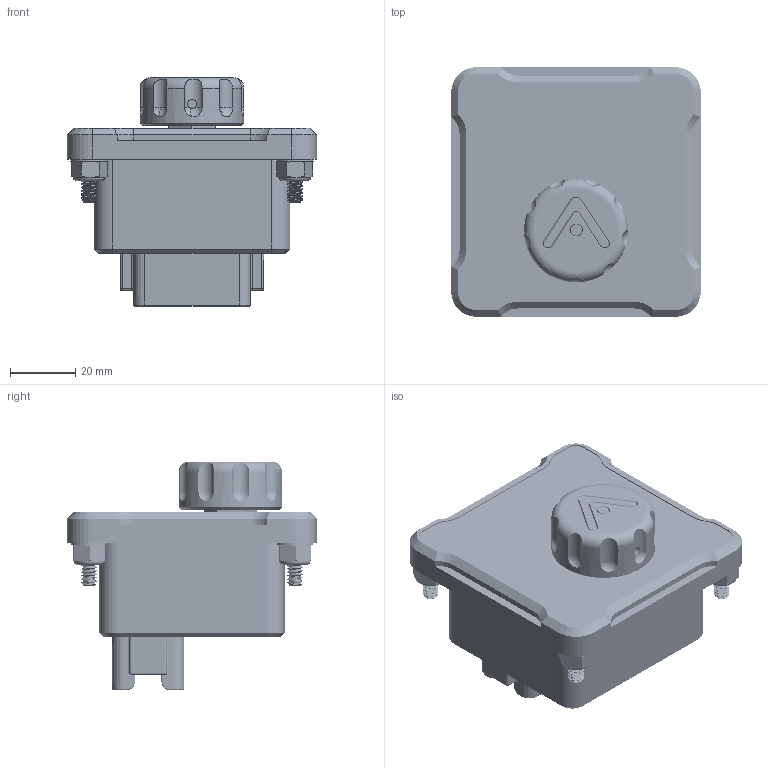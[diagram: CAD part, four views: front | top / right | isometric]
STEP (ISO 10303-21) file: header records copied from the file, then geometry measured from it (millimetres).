
FILE_DESCRIPTION (( 'STEP AP214' ), '1' );
FILE_NAME ('AxleTech Dial V1.STEP', '2019-01-15T16:22:10', ( '' ), ( '' ), 'SwSTEP 2.0', 'SolidWorks 2014', '' );
FILE_SCHEMA (( 'AUTOMOTIVE_DESIGN' ));
Length unit declared in the file: inch
Products named in the file (18): c-dtf15-12pb-99-3d; Label; AxleTech Dial Body; Machined Dial Knob; AxleTech Dial V1; Axlteck_Knob_Backlight_1A2; SW3dPS-1206_SMD_Capacitor; sot223-4; apbda3020; hdr-1x4sz_2.54_10x5; Board_STEP_FILE_FOR_JAMIE_1A2; 93580A155_PEM R  PRESS-IN STUD_93580A155; 91831A011_TYPE 18-8 STAINLESS STL NYLON-INSERT LOCKNUT (1)_91831A011; 90107A011_TYPE 316 STAINLESS STEEL FLAT WASHER (1)_90107A011; Bottom PCB; Part22^AxleTech Dial V1; GreyHill 24001-03N; Potting Compound
Assembly tree (45 placements, depth 3):
  AxleTech Dial V1
    Machined Dial Knob
    AxleTech Dial Body
    Label
    c-dtf15-12pb-99-3d
    Potting Compound
    GreyHill 24001-03N
    Part22^AxleTech Dial V1
    Bottom PCB
    90107A011_TYPE 316 STAINLESS STEEL FLAT WASHER (1)_90107A011  x4
    91831A011_TYPE 18-8 STAINLESS STL NYLON-INSERT LOCKNUT (1)_91831A011  x4
    93580A155_PEM R  PRESS-IN STUD_93580A155  x4
    Axlteck_Knob_Backlight_1A2
      Board_STEP_FILE_FOR_JAMIE_1A2
      hdr-1x4sz_2.54_10x5  x2
      apbda3020  x12
      sot223-4  x3
      SW3dPS-1206_SMD_Capacitor  x6
Bounding box: 76.2 x 76.2 x 69.8 mm (x, y, z)
Volume: 157081.3 mm3; surface area: 88754.9 mm2
Topology: 162 solids, 162 shells, 8003 faces, 20564 edges, 13301 vertices
Faces by surface type: plane 4440, bspline 1954, cylinder 1102, cone 359, torus 130, sphere 18
Entity records: 108385 total; most frequent: CARTESIAN_POINT 42052, ORIENTED_EDGE 11466, DIRECTION 10202, EDGE_CURVE 5733, VERTEX_POINT 3663, VECTOR 3404, LINE 3404, AXIS2_PLACEMENT_3D 3399
